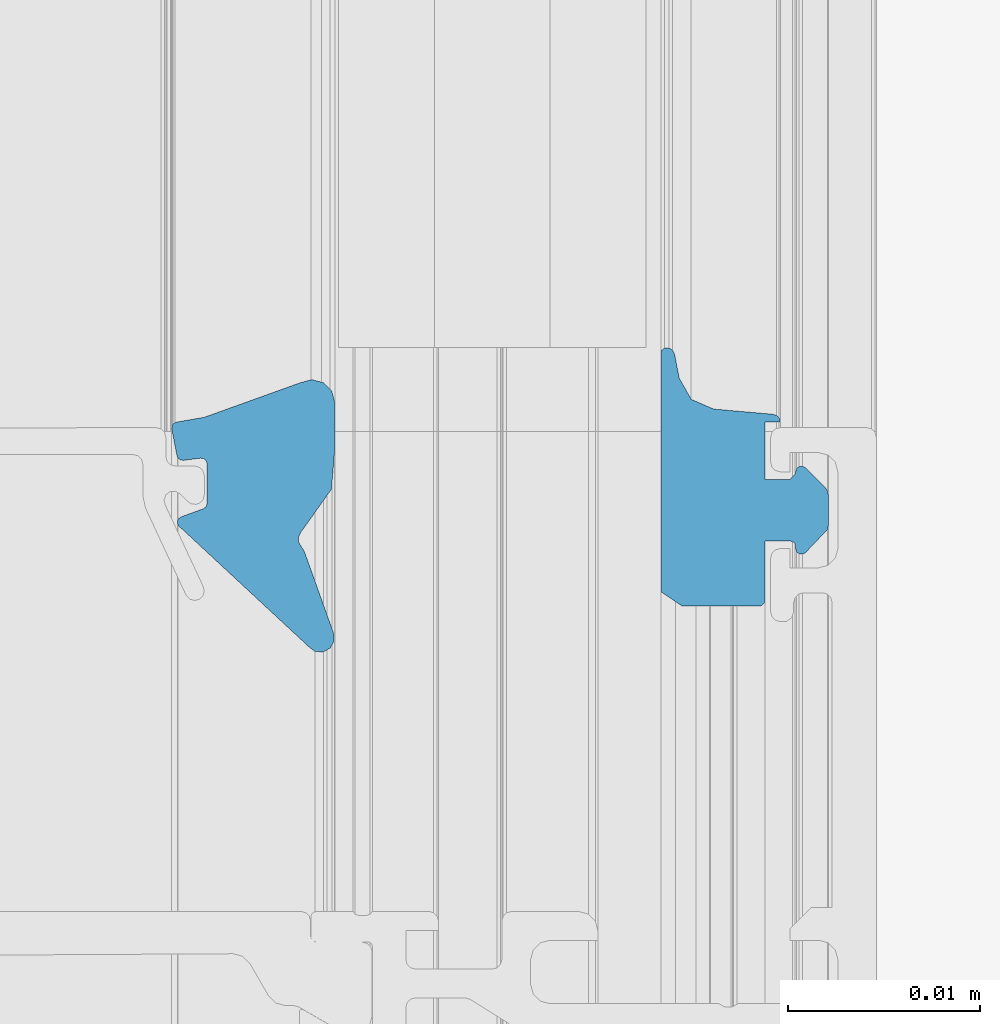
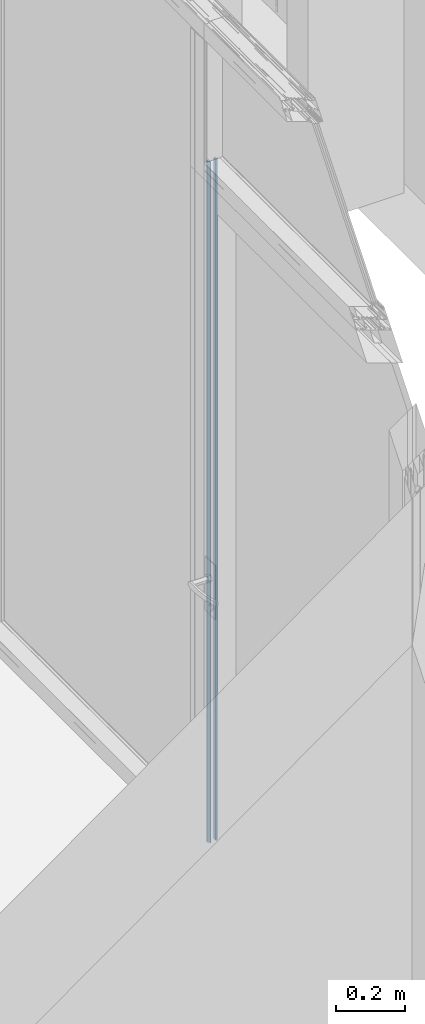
# One storey, part 52 of 89: 1 building element part, 2 elements without a shape of their own.
"""IFC2X3 building model written with IfcOpenShell, lengths in millimetres."""

import ifcopenshell
import ifcopenshell.guid

model = None  # the IFC model being written
_history = None  # IfcOwnerHistory: only IFC2X3 demands one
_inside = {}  # id of a spatial element -> (the spatial element, [elements in it])
_under = {}  # id of a project, library or spatial element -> (it, [spatial elements below it])
_declared = {}  # id of a project -> (the project, [libraries it declares])
_typed = {}  # id of a type object -> (the type object, [elements of that type])
_made_of = {}  # id of a material, layer set ... -> (it, [elements and type objects made of it])


def new_model(schema):
    """Start an empty IFC model of exactly this schema.

    Asked for "IFC4X3", IfcOpenShell would pick the latest addendum, in which some entities
    have other attributes; the version numbers below select the first issue.
    IFC2X3 requires an IfcOwnerHistory on every rooted entity: one is made here for all.
    """
    global model, _history
    if schema == "IFC4X3":
        model = ifcopenshell.file(schema_version=(4, 3, 0, 0))
    else:
        model = ifcopenshell.file(schema=schema)
    _inside.clear()
    _under.clear()
    _declared.clear()
    _typed.clear()
    _made_of.clear()
    _history = None
    if model.schema == "IFC2X3":
        org = make("IfcOrganization", Name="unknown")
        user = make(
            "IfcPersonAndOrganization",
            ThePerson=make("IfcPerson", FamilyName="unknown"),
            TheOrganization=org,
        )
        app = make(
            "IfcApplication",
            ApplicationDeveloper=org,
            Version="unknown",
            ApplicationFullName="unknown",
            ApplicationIdentifier="unknown",
        )
        _history = make(
            "IfcOwnerHistory",
            OwningUser=user,
            OwningApplication=app,
            ChangeAction="ADDED",
            CreationDate=0,
        )
    return model


def make(cls, **values):
    """One entity of the class cls with the attributes given. An attribute that is None is left unset."""
    return model.create_entity(
        cls, **{name: value for name, value in values.items() if value is not None}
    )


def entity(cls, *values):
    """Any entity or typed value of the class cls, its attributes in the order of the schema. None: left unset."""
    e = model.create_entity(cls)
    for i, value in enumerate(values):
        if value is not None:
            e[i] = value
    return e


def rooted(cls, **values):
    """An entity with a GlobalId (a new one), such as an element, a storey or a relation."""
    return make(cls, GlobalId=ifcopenshell.guid.new(), OwnerHistory=_history, **values)


def si_unit(unit_type, name, prefix=None):
    """IfcSIUnit, for example si_unit("LENGTHUNIT", "METRE", prefix="MILLI")."""
    return make("IfcSIUnit", UnitType=unit_type, Prefix=prefix, Name=name)


def converted_unit(unit_type, name, factor, base, dimensions=None, offset=None):
    """IfcConversionBasedUnit, such as the inch: factor (a typed value) times the base unit."""
    return make(
        "IfcConversionBasedUnit"
        if offset is None
        else "IfcConversionBasedUnitWithOffset",
        ConversionOffset=offset,
        Dimensions=None
        if dimensions is None
        else entity("IfcDimensionalExponents", *dimensions),
        UnitType=unit_type,
        Name=name,
        ConversionFactor=make(
            "IfcMeasureWithUnit", ValueComponent=factor, UnitComponent=base
        ),
    )


def derived_unit(unit_type, elements):
    """IfcDerivedUnit: a product of units, each with its exponent."""
    return make(
        "IfcDerivedUnit",
        Elements=[
            make("IfcDerivedUnitElement", Unit=unit, Exponent=power)
            for unit, power in elements
        ],
        UnitType=unit_type,
    )


def money_unit(currency):
    """IfcMonetaryUnit."""
    return make("IfcMonetaryUnit", Currency=currency)


def assignment(units):
    """IfcUnitAssignment: the units of a project."""
    return None if units is None else make("IfcUnitAssignment", Units=units)


def point(xyz):
    """IfcCartesianPoint."""
    return None if xyz is None else make("IfcCartesianPoint", Coordinates=xyz)


def direction(xyz):
    """IfcDirection."""
    return None if xyz is None else make("IfcDirection", DirectionRatios=xyz)


def frame(location, z_axis=None, x_axis=None):
    """IfcAxis2Placement3D, a coordinate frame: its origin and axes. An axis left out is left unset."""
    return make(
        "IfcAxis2Placement3D",
        Location=point(location),
        Axis=direction(z_axis),
        RefDirection=direction(x_axis),
    )


def origin_with_axes():
    """The frame at (0, 0, 0) with the z axis (0, 0, 1) and the x axis (1, 0, 0) written out."""
    return frame((0.0, 0.0, 0.0), z_axis=(0.0, 0.0, 1.0), x_axis=(1.0, 0.0, 0.0))


def place(relative_to, where):
    """IfcLocalPlacement: puts the frame where relative to a parent placement (None: the world)."""
    return make(
        "IfcLocalPlacement", PlacementRelTo=relative_to, RelativePlacement=where
    )


def context(
    kind, dimensions, precision=None, world=None, true_north=None, identifier=None
):
    """IfcGeometricRepresentationContext, for example the 3D "Model" context."""
    return make(
        "IfcGeometricRepresentationContext",
        ContextIdentifier=identifier,
        ContextType=kind,
        CoordinateSpaceDimension=dimensions,
        Precision=precision,
        WorldCoordinateSystem=world,
        TrueNorth=true_north,
    )


def subcontext(parent, identifier, kind, view, scale=None):
    """IfcGeometricRepresentationSubContext, for example "Body" below "Model"."""
    return make(
        "IfcGeometricRepresentationSubContext",
        ContextIdentifier=identifier,
        ContextType=kind,
        ParentContext=parent,
        TargetScale=scale,
        TargetView=view,
    )


def project(units=None, contexts=None):
    """IfcProject with its units and contexts."""
    return rooted(
        "IfcProject",
        Name="project",
        RepresentationContexts=contexts,
        UnitsInContext=assignment(units),
    )


def spatial(cls, under=None, at=None, **own):
    """A site, building, storey or space (cls), placed at a placement, below another one or the project."""
    s = rooted(cls, ObjectPlacement=at, **own)
    if under is not None:
        _under.setdefault(under.id(), (under, []))[1].append(s)
    return s


def faces_of(points, faces, orient=None, outer=None):
    """IfcFace entities. A face is a list of loops; a loop is a list of indices into points, from 0.

    orient and outer hold one flag for each loop. By default every Orientation is true, the
    first loop of a face is its IfcFaceOuterBound and the others are IfcFaceBound.
    """
    made = []
    for i, loops in enumerate(faces):
        bounds = []
        for j, loop in enumerate(loops):
            is_outer = j == 0 if outer is None else outer[i][j]
            bounds.append(
                make(
                    "IfcFaceOuterBound" if is_outer else "IfcFaceBound",
                    Bound=make("IfcPolyLoop", Polygon=[points[k] for k in loop]),
                    Orientation=True if orient is None else orient[i][j],
                )
            )
        made.append(make("IfcFace", Bounds=bounds))
    return made


def faceted_brep(points, faces, orient=None, outer=None, voids=None):
    """IfcFacetedBrep: a solid bounded by flat faces; with voids (closed shells), ...WithVoids."""
    shared = [point(p) for p in points]
    hull = make("IfcClosedShell", CfsFaces=faces_of(shared, faces, orient, outer))
    if voids is None:
        return make("IfcFacetedBrep", Outer=hull)
    return make(
        "IfcFacetedBrepWithVoids",
        Outer=hull,
        Voids=[
            make(cls, CfsFaces=faces_of(shared, fs, o, b)) for cls, fs, o, b in voids
        ],
    )


def shape(context_of_items, identifier, shape_type, items):
    """IfcShapeRepresentation: the items that make up one representation, for example the "Body"."""
    return make(
        "IfcShapeRepresentation",
        ContextOfItems=context_of_items,
        RepresentationIdentifier=identifier,
        RepresentationType=shape_type,
        Items=items,
    )


def material(Name=None, Category=None):
    """IfcMaterial."""
    return make("IfcMaterial", Name=Name, Category=Category)


def made_of(thing, what):
    """Note that an element or type object is made of a material, layer set ...; save() writes the relation."""
    if what is not None:
        _made_of.setdefault(what.id(), (what, []))[1].append(thing)
    return thing


def type_object(cls, material=None, **own):
    """A type object (cls), such as IfcWallType, which elements share."""
    return made_of(rooted(cls, **own), material)


def element(
    cls,
    number,
    at=None,
    inside=None,
    cuts=None,
    type_object=None,
    material=None,
    context=None,
    identifier="Body",
    shape_type=None,
    held_by="IfcProductDefinitionShape",
    body=None,
    shapes=None,
    **own,
):
    """One element of the class cls, such as IfcWall. Its Tag is "e" and its number.

    at: its placement. inside: the storey or other place that contains it. cuts: it is an
    opening in that element (IfcRelVoidsElement). A single representation is given by context,
    identifier, shape_type and body (its items); several are given by shapes. held_by: the class
    of the entity that holds the representations. save() writes the other relations.
    """
    e = rooted(cls, Tag="e%d" % number, ObjectPlacement=at, **own)
    if body is not None:
        shapes = [shape(context, identifier, shape_type, body)]
    if shapes is not None:
        e.Representation = make(held_by, Representations=shapes)
    if inside is not None:
        _inside.setdefault(inside.id(), (inside, []))[1].append(e)
    if cuts is not None:
        rooted(
            "IfcRelVoidsElement", RelatingBuildingElement=cuts, RelatedOpeningElement=e
        )
    if type_object is not None:
        _typed.setdefault(type_object.id(), (type_object, []))[1].append(e)
    return made_of(e, material)


def aggregate(whole, parts):
    """IfcRelAggregates: a whole, such as a stair, and the parts it consists of."""
    return rooted("IfcRelAggregates", RelatingObject=whole, RelatedObjects=parts)


def save(model, path):
    """Write the relations noted so far, then the file.

    IfcRelAggregates (storeys below a building ...), IfcRelContainedInSpatialStructure (elements
    in a storey), IfcRelDefinesByType, IfcRelAssociatesMaterial and IfcRelDeclares: one each for
    every whole, place, type object, material and project.
    """
    for whole, parts in _under.values():
        aggregate(whole, parts)
    for where, things in _inside.values():
        rooted(
            "IfcRelContainedInSpatialStructure",
            RelatedElements=things,
            RelatingStructure=where,
        )
    for kind, things in _typed.values():
        rooted("IfcRelDefinesByType", RelatedObjects=things, RelatingType=kind)
    for what, things in _made_of.values():
        rooted("IfcRelAssociatesMaterial", RelatedObjects=things, RelatingMaterial=what)
    for by, libraries in _declared.values():
        rooted("IfcRelDeclares", RelatingContext=by, RelatedDefinitions=libraries)
    model.write(path)


model = new_model("IFC2X3")

# Units and contexts
model_context = context("Model", 3, precision=0.01, world=origin_with_axes(), true_north=direction((0.0, 1.0)))
body_context = subcontext(model_context, "Body", "Model", "MODEL_VIEW")
ifc_project = project(units=[si_unit("LENGTHUNIT", "METRE", prefix="MILLI"), si_unit("AREAUNIT", "SQUARE_METRE"), si_unit("VOLUMEUNIT", "CUBIC_METRE"), converted_unit("PLANEANGLEUNIT", "DEGREE", entity("IfcPlaneAngleMeasure", 0.0174532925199), si_unit("PLANEANGLEUNIT", "RADIAN"), dimensions=[0, 0, 0, 0, 0, 0, 0]), si_unit("SOLIDANGLEUNIT", "STERADIAN"), money_unit("EUR"), converted_unit("TIMEUNIT", "Year", entity("IfcTimeMeasure", 31556926.0), si_unit("TIMEUNIT", "SECOND"), dimensions=[0, 0, 1, 0, 0, 0, 0]), si_unit("MASSUNIT", "GRAM", prefix="KILO"), si_unit("THERMODYNAMICTEMPERATUREUNIT", "DEGREE_CELSIUS"), si_unit("LUMINOUSINTENSITYUNIT", "LUMEN"), si_unit("ENERGYUNIT", "JOULE", prefix="MEGA"), derived_unit("THERMALCONDUCTANCEUNIT", [(si_unit("POWERUNIT", "WATT"), 1), (si_unit("LENGTHUNIT", "METRE"), -1), (si_unit("THERMODYNAMICTEMPERATUREUNIT", "KELVIN"), -1)]), derived_unit("SPECIFICHEATCAPACITYUNIT", [(si_unit("ENERGYUNIT", "JOULE"), 1), (si_unit("MASSUNIT", "GRAM", prefix="KILO"), -1), (si_unit("THERMODYNAMICTEMPERATUREUNIT", "KELVIN"), -1)]), derived_unit("MASSDENSITYUNIT", [(si_unit("MASSUNIT", "GRAM", prefix="KILO"), 1), (si_unit("VOLUMEUNIT", "CUBIC_METRE"), -1)])], contexts=[model_context])

# Site, building, storey
site_placement = place(None, origin_with_axes())
site = spatial("IfcSite", under=ifc_project, at=site_placement, Name="Puškini 31, Narva", CompositionType="ELEMENT")
building_placement = place(site_placement, origin_with_axes())
building = spatial("IfcBuilding", under=site, at=building_placement, Name="Narva Riigigümnaasium", CompositionType="ELEMENT")
storey_placement = place(building_placement, frame((0.0, 0.0, -3300.0), z_axis=(0.0, 0.0, 1.0), x_axis=(1.0, 0.0, 0.0)))
storey = spatial("IfcBuildingStorey", under=building, at=storey_placement, Name="1.korrus -3.3", CompositionType="ELEMENT", Elevation=-3300.0)

# Curtain wall, member, building element part
curtain_wall_type = type_object("IfcCurtainWallType", Name="Curtain Wall Type", PredefinedType="NOTDEFINED")
curtain_wall_placement = place(storey_placement, frame((34855.0104166, 221770.599999, -2.45869391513e-05), z_axis=(0.0, 0.0, 1.0), x_axis=(1.0, 0.0, 0.0)))
curtain_wall = element("IfcCurtainWall", 1, at=curtain_wall_placement, inside=storey, type_object=curtain_wall_type, Name="G-SKLF-08")
member_type = type_object("IfcMemberType", Name="82 x 45", PredefinedType="MULLION")
member_placement = place(curtain_wall_placement, frame((-0.00305436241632, 709.399999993, 2.45869395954e-05), z_axis=(0.0, 0.0, 1.0), x_axis=(4.3055573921e-06, -0.999999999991, 0.0)))
member = element("IfcMember", 2, at=member_placement, type_object=member_type, Name="G-SKLF-08-raam", ObjectType="MULLION")
aggregate(curtain_wall, [member])
ifc_material = material(Name="Membraan - Veekindel")
building_element_part_placement = place(member_placement, origin_with_axes())
building_element_part = element("IfcBuildingElementPart", 3, at=building_element_part_placement, material=ifc_material, Name="Membraan - Veekindel", context=body_context, shape_type="Brep", body=[
    faceted_brep([(-72.7204882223, 15.0100099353, 0.0), (-74.9898926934, 16.6230552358, 0.0), (-74.9898926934, 16.6230552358, 2400.0), (-72.7204882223, 15.0100099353, 2400.0), (-72.5011668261, 14.8999349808, 0.0), (-72.2558878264, 14.9074571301, 0.0), (-72.0437237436, 15.0307647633, 0.0), (-71.7536994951, 15.2121692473, 0.0), (-67.4982927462, 16.7341218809, 0.0), (-67.0740702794, 16.7580150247, 0.0), (-66.7049453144, 16.5475813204, 0.0), (-66.5093924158, 16.1703616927, 0.0), (-66.5501763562, 15.7474287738, 0.0), (-66.8142070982, 15.4145273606, 0.0), (-73.0645590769, 8.68581760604, 0.0), (-73.192689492, 8.61180126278, 0.0), (-73.3406152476, 8.60808734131, 0.0), (-73.4722984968, 8.67558063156, 0.0), (-73.5556584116, 8.79783833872, 0.0), (-73.9761212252, 9.95305042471, 0.0), (-74.0859560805, 10.096189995, 0.0), (-74.2580290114, 10.1504443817, 0.0), (-76.3123574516, 10.1504443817, 0.0), (-76.4731258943, 10.1037298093, 0.0), (-76.5838261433, 9.9781344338, 0.0), (-76.6099827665, 9.81277248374, 0.0), (-76.4957458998, 8.91024871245, 0.0), (-76.5142922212, 8.76250903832, 0.0), (-76.601588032, 8.64188392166, 0.0), (-76.7361285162, 8.57808865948, 0.0), (-78.1361285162, 8.30595622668, 0.0), (-78.2917480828, 8.3170330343, 0.0), (-78.4207620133, 8.4047573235, 0.0), (-78.4882789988, 8.54540440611, 0.0), (-78.7418652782, 10.0036443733, 0.0), (-80.5405112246, 15.001346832, 0.0), (-80.7012805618, 15.6006926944, 0.0), (-80.5411647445, 16.2002134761, 0.0), (-80.1029794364, 16.6395947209, 0.0), (-79.5038972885, 16.8013439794, 0.0), (-77.1927259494, 16.806401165, 0.0), (-77.1927259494, 16.806401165, 2400.0), (-79.5038972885, 16.8013439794, 2400.0), (-80.1029794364, 16.6395947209, 2400.0), (-80.5411647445, 16.2002134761, 2400.0), (-80.7012805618, 15.6006926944, 2400.0), (-80.5405112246, 15.001346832, 2400.0), (-78.7418652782, 10.0036443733, 2400.0), (-78.4882789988, 8.54540440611, 2400.0), (-78.4207620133, 8.4047573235, 2400.0), (-78.2917480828, 8.3170330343, 2400.0), (-78.1361285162, 8.30595622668, 2400.0), (-76.7361285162, 8.57808865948, 2400.0), (-76.601588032, 8.64188392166, 2400.0), (-76.5142922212, 8.76250903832, 2400.0), (-76.4957458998, 8.91024871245, 2400.0), (-76.6099827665, 9.81277248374, 2400.0), (-76.5838261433, 9.9781344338, 2400.0), (-76.4731258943, 10.1037298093, 2400.0), (-76.3123574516, 10.1504443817, 2400.0), (-74.2580290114, 10.1504443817, 2400.0), (-74.0859560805, 10.096189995, 2400.0), (-73.9761212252, 9.95305042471, 2400.0), (-73.5556584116, 8.79783833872, 2400.0), (-73.4722984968, 8.67558063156, 2400.0), (-73.3406152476, 8.60808734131, 2400.0), (-73.192689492, 8.61180126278, 2400.0), (-73.0645590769, 8.68581760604, 2400.0), (-66.8142070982, 15.4145273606, 2400.0), (-66.5501763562, 15.7474287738, 2400.0), (-66.5093924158, 16.1703616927, 2400.0), (-66.7049453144, 16.5475813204, 2400.0), (-67.0740702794, 16.7580150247, 2400.0), (-67.4982927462, 16.7341218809, 2400.0), (-71.7536994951, 15.2121692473, 2400.0), (-72.0437237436, 15.0307647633, 2400.0), (-72.2558878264, 14.9074571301, 2400.0), (-72.5011668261, 14.8999349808, 2400.0)], [[[0, 1, 2, 3]], [[0, 4, 5, 6, 7, 8, 9, 10, 11, 12, 13, 14, 15, 16, 17, 18, 19, 20, 21, 22, 23, 24, 25, 26, 27, 28, 29, 30, 31, 32, 33, 34, 35, 36, 37, 38, 39, 40, 1]], [[1, 40, 41, 2]], [[3, 2, 41, 42, 43, 44, 45, 46, 47, 48, 49, 50, 51, 52, 53, 54, 55, 56, 57, 58, 59, 60, 61, 62, 63, 64, 65, 66, 67, 68, 69, 70, 71, 72, 73, 74, 75, 76, 77]], [[4, 0, 3, 77]], [[5, 4, 77, 76]], [[6, 5, 76, 75]], [[7, 6, 75, 74]], [[8, 7, 74, 73]], [[9, 8, 73, 72]], [[10, 9, 72, 71]], [[11, 10, 71, 70]], [[12, 11, 70, 69]], [[13, 12, 69, 68]], [[14, 13, 68, 67]], [[15, 14, 67, 66]], [[16, 15, 66, 65]], [[17, 16, 65, 64]], [[18, 17, 64, 63]], [[19, 18, 63, 62]], [[20, 19, 62, 61]], [[21, 20, 61, 60]], [[22, 21, 60, 59]], [[23, 22, 59, 58]], [[24, 23, 58, 57]], [[25, 24, 57, 56]], [[26, 25, 56, 55]], [[27, 26, 55, 54]], [[28, 27, 54, 53]], [[29, 28, 53, 52]], [[30, 29, 52, 51]], [[31, 30, 51, 50]], [[32, 31, 50, 49]], [[33, 32, 49, 48]], [[34, 33, 48, 47]], [[35, 34, 47, 46]], [[36, 35, 46, 45]], [[37, 36, 45, 44]], [[38, 37, 44, 43]], [[39, 38, 43, 42]], [[40, 39, 42, 41]]]),
    faceted_brep([(-71.6876987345, 41.3119145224, 0.0), (-72.8904310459, 42.4618935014, 0.0), (-72.8904310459, 42.4618935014, 2400.0), (-71.6876987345, 41.3119145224, 2400.0), (-71.6057623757, 41.1582990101, 0.0), (-71.6229356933, 40.9850466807, 0.0), (-71.7334350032, 40.8505059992, 0.0), (-71.900046, 40.799988, 0.0), (-72.00004, 40.799988, 0.0), (-72.15004, 40.7597956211, 0.0), (-72.2598476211, 40.649988, 0.0), (-72.30004, 40.499988, 0.0), (-72.30004, 39.200012, 0.0), (-71.30004, 39.2000007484, 0.0), (-69.2000038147, 39.2000007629, 0.0), (-69.0500179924, 39.159812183, 0.0), (-68.9402207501, 39.0500149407, 0.0), (-68.9000321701, 38.9000291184, 0.0), (-68.8997554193, 34.9006000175, 0.0), (-69.647137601, 33.7902637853, 0.0), (-82.2108941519, 33.7902637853, 0.0), (-82.3423779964, 33.9722990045, 0.0), (-82.3536959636, 34.1965683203, 0.0), (-82.2412066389, 34.3909158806, 0.0), (-82.041102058, 34.4928127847, 0.0), (-80.7800222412, 34.7379988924, 0.0), (-79.6755028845, 35.3629012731, 0.0), (-79.1693613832, 36.5266395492, 0.0), (-78.9000324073, 39.6000097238, 0.0), (-78.8464370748, 39.8000230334, 0.0), (-78.7000161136, 39.9464425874, 0.0), (-78.5000022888, 40.0000359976, 0.0), (-78.5000022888, 39.2000007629, 0.0), (-76.5000210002, 39.200012, 0.0), (-75.500021, 39.200012, 0.0), (-75.500021, 40.499988, 0.0), (-75.800021, 40.799988, 0.0), (-75.9000173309, 40.799988, 0.0), (-76.0666568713, 40.8505228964, 0.0), (-76.1771585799, 40.9851032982, 0.0), (-76.1942964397, 41.1583915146, 0.0), (-76.1122970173, 41.3120098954, 0.0), (-75.0716106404, 42.353428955, 0.0), (-74.9093558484, 42.461906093, 0.0), (-74.717932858, 42.5, 0.0), (-73.0818844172, 42.5, 0.0), (-73.0818844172, 42.5, 2400.0), (-74.717932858, 42.5, 2400.0), (-74.9093558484, 42.461906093, 2400.0), (-75.0716106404, 42.353428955, 2400.0), (-76.1122970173, 41.3120098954, 2400.0), (-76.1942964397, 41.1583915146, 2400.0), (-76.1771585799, 40.9851032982, 2400.0), (-76.0666568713, 40.8505228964, 2400.0), (-75.9000173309, 40.799988, 2400.0), (-75.800021, 40.799988, 2400.0), (-75.500021, 40.499988, 2400.0), (-75.500021, 39.200012, 2400.0), (-76.5000210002, 39.200012, 2400.0), (-78.5000022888, 39.2000007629, 2400.0), (-78.5000022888, 40.0000359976, 2400.0), (-78.7000161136, 39.9464425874, 2400.0), (-78.8464370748, 39.8000230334, 2400.0), (-78.9000324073, 39.6000097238, 2400.0), (-79.1693613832, 36.5266395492, 2400.0), (-79.6755028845, 35.3629012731, 2400.0), (-80.7800222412, 34.7379988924, 2400.0), (-82.041102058, 34.4928127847, 2400.0), (-82.2412066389, 34.3909158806, 2400.0), (-82.3536959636, 34.1965683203, 2400.0), (-82.3423779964, 33.9722990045, 2400.0), (-82.2108941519, 33.7902637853, 2400.0), (-69.647137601, 33.7902637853, 2400.0), (-68.8997554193, 34.9006000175, 2400.0), (-68.9000321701, 38.9000291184, 2400.0), (-68.9402207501, 39.0500149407, 2400.0), (-69.0500179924, 39.159812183, 2400.0), (-69.2000038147, 39.2000007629, 2400.0), (-71.30004, 39.2000007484, 2400.0), (-72.30004, 39.200012, 2400.0), (-72.30004, 40.499988, 2400.0), (-72.2598476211, 40.649988, 2400.0), (-72.15004, 40.7597956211, 2400.0), (-72.00004, 40.799988, 2400.0), (-71.900046, 40.799988, 2400.0), (-71.7334350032, 40.8505059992, 2400.0), (-71.6229356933, 40.9850466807, 2400.0), (-71.6057623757, 41.1582990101, 2400.0)], [[[0, 1, 2, 3]], [[0, 4, 5, 6, 7, 8, 9, 10, 11, 12, 13, 14, 15, 16, 17, 18, 19, 20, 21, 22, 23, 24, 25, 26, 27, 28, 29, 30, 31, 32, 33, 34, 35, 36, 37, 38, 39, 40, 41, 42, 43, 44, 45, 1]], [[1, 45, 46, 2]], [[3, 2, 46, 47, 48, 49, 50, 51, 52, 53, 54, 55, 56, 57, 58, 59, 60, 61, 62, 63, 64, 65, 66, 67, 68, 69, 70, 71, 72, 73, 74, 75, 76, 77, 78, 79, 80, 81, 82, 83, 84, 85, 86, 87]], [[4, 0, 3, 87]], [[5, 4, 87, 86]], [[6, 5, 86, 85]], [[7, 6, 85, 84]], [[8, 7, 84, 83]], [[9, 8, 83, 82]], [[10, 9, 82, 81]], [[11, 10, 81, 80]], [[12, 11, 80, 79]], [[13, 12, 79, 78]], [[14, 13, 78, 77]], [[15, 14, 77, 76]], [[16, 15, 76, 75]], [[17, 16, 75, 74]], [[18, 17, 74, 73]], [[19, 18, 73, 72]], [[20, 19, 72, 71]], [[21, 20, 71, 70]], [[22, 21, 70, 69]], [[23, 22, 69, 68]], [[24, 23, 68, 67]], [[25, 24, 67, 66]], [[26, 25, 66, 65]], [[27, 26, 65, 64]], [[28, 27, 64, 63]], [[29, 28, 63, 62]], [[30, 29, 62, 61]], [[31, 30, 61, 60]], [[32, 31, 60, 59]], [[33, 32, 59, 58]], [[34, 33, 58, 57]], [[35, 34, 57, 56]], [[36, 35, 56, 55]], [[37, 36, 55, 54]], [[38, 37, 54, 53]], [[39, 38, 53, 52]], [[40, 39, 52, 51]], [[41, 40, 51, 50]], [[42, 41, 50, 49]], [[43, 42, 49, 48]], [[44, 43, 48, 47]], [[45, 44, 47, 46]]]),
])
aggregate(member, [building_element_part])

save(model, "model.ifc")
